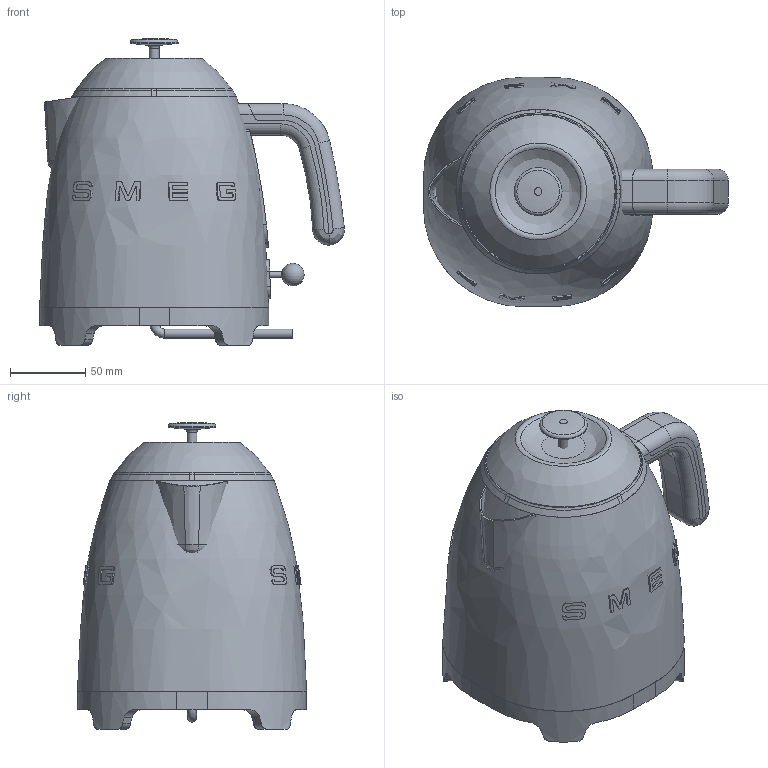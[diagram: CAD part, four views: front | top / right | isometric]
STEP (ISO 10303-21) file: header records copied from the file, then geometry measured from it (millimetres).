
FILE_DESCRIPTION(/* description */ (''),/* implementation_level */ '2;1');
FILE_NAME(/* name */ 'KLF05BLAU.stp',/* time_stamp */ '2021-03-17T17:13:30+01:00',/* author */ (''),/* organization */ (''),/* preprocessor_version */ 'ST-DEVELOPER v16',/* originating_system */ 'SIEMENS PLM Software NX 11.0',/* authorisation */ '');
FILE_SCHEMA (('AUTOMOTIVE_DESIGN { 1 0 10303 214 3 1 1 1 }'));
Length unit declared in the file: millimetre
Products named in the file (1): Mart505C640D3ugc
Bounding box: 202.21 x 152 x 203.59 mm (x, y, z)
Volume: 2940760.1 mm3; surface area: 266247.3 mm2
Topology: 21 solids, 21 shells, 387 faces, 1014 edges, 670 vertices
Faces by surface type: plane 180, cylinder 100, extrusion 64, cone 16, torus 16, bspline 9, sphere 2
Full cylindrical faces by diameter (mm): 4 x1, 6 x1, 6.5 x1, 28.246 x2, 31.679 x1
Entity records: 13497 total; most frequent: CARTESIAN_POINT 3557, DIRECTION 2094, ORIENTED_EDGE 1978, EDGE_CURVE 989, AXIS2_PLACEMENT_3D 737, VERTEX_POINT 662, VECTOR 620, LINE 556
